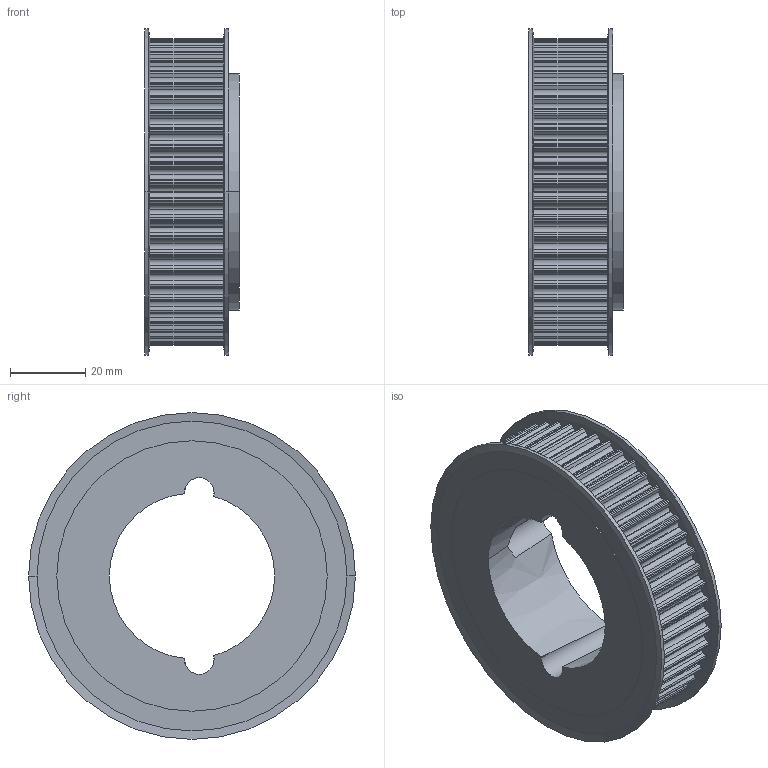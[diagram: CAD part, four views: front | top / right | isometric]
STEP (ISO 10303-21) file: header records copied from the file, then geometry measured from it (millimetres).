
FILE_DESCRIPTION( ( '' ), '1' );
FILE_NAME( 'C:/Users/Stangenbergd/Documents/CAD_Step/1/17277352.stp', '2021-10-19T10:06:23', ( '' ), ( '' ), ' ', ' ', ' ' );
FILE_SCHEMA( ( 'CONFIG_CONTROL_DESIGN' ) );
Length unit declared in the file: millimetre
Products named in the file (1): 1
Bounding box: 25.17 x 87 x 87 mm (x, y, z)
Volume: 76975.7 mm3; surface area: 22699.4 mm2
Topology: 1 solids, 1 shells, 455 faces, 1334 edges, 886 vertices
Faces by surface type: cylinder 278, plane 163, cone 14
Entity records: 15484 total; most frequent: DIRECTION 2802, CARTESIAN_POINT 2800, ORIENTED_EDGE 2668, EDGE_CURVE 1334, AXIS2_PLACEMENT_3D 1024, VERTEX_POINT 886, LINE 754, VECTOR 754
